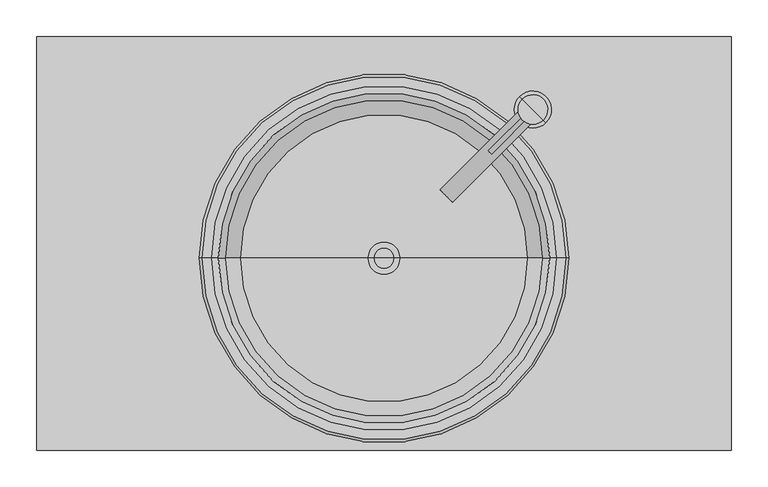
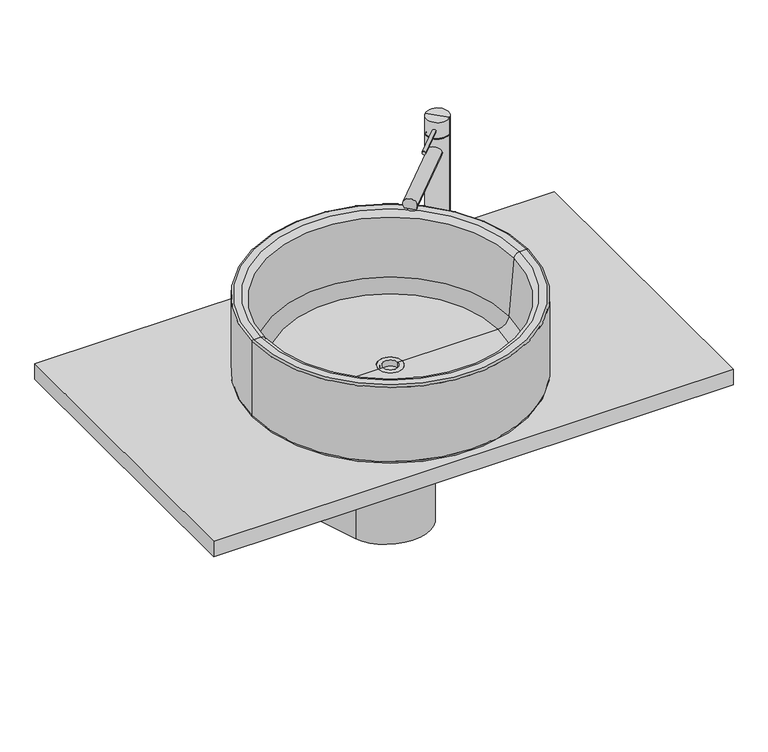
"""IFC4 building model written with IfcOpenShell, lengths in millimetres: flow terminal geometry, Lavabo moderne : Lavabo moderne."""

from ifc_helpers import new_model, si_unit, point, frame, frame_2d, origin, place, context, project, spatial, polyline, circle_curve, ellipse_curve, trimmed, segment, composite_curve, outline, extrude, source, transform, mapped, element, save
from ifc_brep_helpers import plane_surface, cylinder_surface, revolved_surface, advanced_brep


def flow_terminal_414a0167(model_context):
    return source(origin(), model_context, "Body", "SolidModel", [
        advanced_brep(
        [(117.6871066, -224.1333228, 240.6419785), (100.7165438, -207.16276, 240.6419785), (102.5610803, -209.0072965, 233.1719709), (115.8425701, -222.2887863, 233.1719709), (217.8900178, -89.989286, 240.6419785), (234.8605806, -106.9598487, 240.6419785), (133.5202396, -204.6111168, 233.1719709), (120.2387498, -191.329627, 233.1719709)],
        [
            (0, 1, circle_curve(frame((109.2018252, -215.6480414, 240.6419785), z_axis=(-0.707106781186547, -0.707106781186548, 0.0), x_axis=(0.7071067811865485, -0.7071067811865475, 0.0)), 12.0)),
            (1, 2, circle_curve(frame((109.2018252, -215.6480414, 240.6419785), z_axis=(-0.707106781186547, -0.707106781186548, 0.0), x_axis=(0.7071067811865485, -0.7071067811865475, 0.0)), 12.0)),
            (2, 3),
            (3, 0, circle_curve(frame((109.2018252, -215.6480414, 240.6419785), z_axis=(-0.707106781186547, -0.707106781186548, 0.0), x_axis=(0.7071067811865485, -0.7071067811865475, 0.0)), 12.0)),
            (4, 5, circle_curve(frame((226.3752992, -98.4745674, 240.6419785), z_axis=(0.707106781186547, 0.707106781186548, 0.0), x_axis=(0.7071067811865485, -0.7071067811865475, 0.0)), 12.0)),
            (5, 4, circle_curve(frame((226.3752992, -98.4745674, 240.6419785), z_axis=(0.707106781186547, 0.707106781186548, 0.0), x_axis=(0.7071067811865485, -0.7071067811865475, 0.0)), 12.0)),
            (5, 0),
            (3, 6),
            (6, 7, circle_curve(frame((126.8794947, -197.9703719, 240.6419785), z_axis=(0.707106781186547, 0.707106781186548, 0.0), x_axis=(0.7071067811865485, -0.7071067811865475, 0.0)), 12.0)),
            (7, 2),
            (1, 4),
            (7, 6),
        ],
        [
            plane_surface(frame((117.6871066, -224.1333228, 240.6419785), z_axis=(-0.707106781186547, -0.707106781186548, 0.0), x_axis=(0.0, 0.0, 1.0))),
            plane_surface(frame((234.8605806, -106.9598487, 240.6419785), z_axis=(0.707106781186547, 0.707106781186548, 0.0), x_axis=(0.0, 0.0, -1.0))),
            cylinder_surface(frame((226.3752992, -98.4745674, 240.6419785), z_axis=(-0.7071067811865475, -0.7071067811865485, 0.0), x_axis=(0.7071067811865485, -0.7071067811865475, 0.0)), 12.0),
            plane_surface(frame((98.3017966, -204.7480128, 233.1719709), z_axis=(0.0, 0.0, -1.0), x_axis=(0.707106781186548, -0.707106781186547, 0.0))),
            plane_surface(frame((115.9794661, -187.0703433, 233.1719709), z_axis=(-0.707106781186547, -0.707106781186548, 0.0), x_axis=(0.707106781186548, -0.707106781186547, 0.0))),
        ],
        [
            (0, [[1, 2, 3, 4]]),
            (1, [[5, 6]]),
            (2, [[-6, 7, -4, 8, 9, 10, -2, 11]]),
            (2, [[-1, -7, -5, -11]]),
            (3, [[12, -8, -3, -10]]),
            (4, [[-12, -9]]),
        ],
    ),
        extrude(outline(composite_curve([segment(trimmed(circle_curve(frame_2d((0.0, -3.0)), 3.0), [point((0.0, -6.0))], [point((0.0, 0.0))], False, "CARTESIAN"), True, "CONTINUOUS"), segment(trimmed(circle_curve(frame_2d((0.0, -3.0)), 3.0), [point((0.0, 0.0))], [point((0.0, -6.0))], False, "CARTESIAN"), True, "CONTINUOUS")], self_intersect=False)), frame((170.4834109, -158.6090964, 283.2676852), z_axis=(0.707106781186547, 0.707106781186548, 0.0), x_axis=(0.0, 0.0, 1.0)), (0.0, 0.0, 1.0), 82.0430665),
        advanced_brep(
        [(226.3752992, -98.4745674, 0.0), (208.6976297, -80.7968978, 0.0), (244.0529687, -116.1522369, 0.0), (240.5174348, -112.616703, 300.0), (212.2331636, -84.3324317, 300.0), (226.3752992, -98.4745674, 300.0), (240.5174348, -112.616703, 270.0), (212.2331636, -84.3324317, 270.0), (239.1032213, -111.2024894, 270.0), (213.6473772, -85.7466453, 270.0), (239.1032213, -111.2024894, 268.0), (213.6473772, -85.7466453, 268.0), (240.5174348, -112.616703, 268.0), (212.2331636, -84.3324317, 268.0), (240.5174348, -112.616703, 4.0), (212.2331636, -84.3324317, 4.0), (244.0529687, -116.1522369, 4.0), (208.6976297, -80.7968978, 4.0)],
        [
            (0, 1),
            (1, 2, circle_curve(frame((226.3752992, -98.4745674, 0.0), z_axis=(0.0, 0.0, -1.0), x_axis=(-0.7071067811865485, 0.7071067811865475, 0.0)), 25.0)),
            (2, 0),
            (2, 1, circle_curve(frame((226.3752992, -98.4745674, 0.0), z_axis=(0.0, 0.0, -1.0), x_axis=(-0.7071067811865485, 0.7071067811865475, 0.0)), 25.0)),
            (3, 4, circle_curve(frame((226.3752992, -98.4745674, 300.0), z_axis=(0.0, 0.0, 1.0), x_axis=(-0.7071067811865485, 0.7071067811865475, 0.0)), 20.0)),
            (4, 5),
            (5, 3),
            (4, 3, circle_curve(frame((226.3752992, -98.4745674, 300.0), z_axis=(0.0, 0.0, 1.0), x_axis=(-0.7071067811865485, 0.7071067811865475, 0.0)), 20.0)),
            (3, 6),
            (6, 7, circle_curve(frame((226.3752992, -98.4745674, 270.0), z_axis=(0.0, 0.0, 1.0), x_axis=(-0.7071067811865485, 0.7071067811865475, 0.0)), 20.0)),
            (7, 4),
            (7, 6, circle_curve(frame((226.3752992, -98.4745674, 270.0), z_axis=(0.0, 0.0, 1.0), x_axis=(-0.7071067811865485, 0.7071067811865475, 0.0)), 20.0)),
            (6, 8),
            (8, 9, circle_curve(frame((226.3752992, -98.4745674, 270.0), z_axis=(0.0, 0.0, 1.0), x_axis=(-0.7071067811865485, 0.7071067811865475, 0.0)), 18.0)),
            (9, 7),
            (9, 8, circle_curve(frame((226.3752992, -98.4745674, 270.0), z_axis=(0.0, 0.0, 1.0), x_axis=(-0.7071067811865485, 0.7071067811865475, 0.0)), 18.0)),
            (8, 10),
            (10, 11, circle_curve(frame((226.3752992, -98.4745674, 268.0), z_axis=(0.0, 0.0, 1.0), x_axis=(-0.7071067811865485, 0.7071067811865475, 0.0)), 18.0)),
            (11, 9),
            (11, 10, circle_curve(frame((226.3752992, -98.4745674, 268.0), z_axis=(0.0, 0.0, 1.0), x_axis=(-0.7071067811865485, 0.7071067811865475, 0.0)), 18.0)),
            (10, 12),
            (12, 13, circle_curve(frame((226.3752992, -98.4745674, 268.0), z_axis=(0.0, 0.0, 1.0), x_axis=(-0.7071067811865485, 0.7071067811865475, 0.0)), 20.0)),
            (13, 11),
            (13, 12, circle_curve(frame((226.3752992, -98.4745674, 268.0), z_axis=(0.0, 0.0, 1.0), x_axis=(-0.7071067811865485, 0.7071067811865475, 0.0)), 20.0)),
            (12, 14),
            (14, 15, circle_curve(frame((226.3752992, -98.4745674, 4.0), z_axis=(0.0, 0.0, 1.0), x_axis=(-0.7071067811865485, 0.7071067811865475, 0.0)), 20.0)),
            (15, 13),
            (15, 14, circle_curve(frame((226.3752992, -98.4745674, 4.0), z_axis=(0.0, 0.0, 1.0), x_axis=(-0.7071067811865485, 0.7071067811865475, 0.0)), 20.0)),
            (14, 16),
            (16, 17, circle_curve(frame((226.3752992, -98.4745674, 4.0), z_axis=(0.0, 0.0, 1.0), x_axis=(-0.7071067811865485, 0.7071067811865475, 0.0)), 25.0)),
            (17, 15),
            (17, 16, circle_curve(frame((226.3752992, -98.4745674, 4.0), z_axis=(0.0, 0.0, 1.0), x_axis=(-0.7071067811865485, 0.7071067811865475, 0.0)), 25.0)),
            (1, 17),
            (16, 2),
        ],
        [
            plane_surface(frame((226.3752992, -98.4745674, 0.0), z_axis=(0.0, 0.0, -1.0), x_axis=(-0.707106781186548, 0.707106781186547, 0.0))),
            plane_surface(frame((226.3752992, -98.4745674, 300.0), z_axis=(0.0, 0.0, 1.0), x_axis=(-0.707106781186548, 0.707106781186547, 0.0))),
            cylinder_surface(frame((226.3752992, -98.4745674, -25.0), z_axis=(0.0, 0.0, -1.0), x_axis=(-0.7071067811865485, 0.7071067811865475, 0.0)), 20.0),
            plane_surface(frame((226.3752992, -98.4745674, 270.0), z_axis=(0.0, 0.0, -1.0), x_axis=(-0.707106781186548, 0.707106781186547, 0.0))),
            cylinder_surface(frame((226.3752992, -98.4745674, -25.0), z_axis=(0.0, 0.0, -1.0), x_axis=(-0.7071067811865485, 0.7071067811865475, 0.0)), 18.0),
            plane_surface(frame((226.3752992, -98.4745674, 268.0), z_axis=(0.0, 0.0, 1.0), x_axis=(-0.707106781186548, 0.707106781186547, 0.0))),
            plane_surface(frame((226.3752992, -98.4745674, 4.0), z_axis=(0.0, 0.0, 1.0), x_axis=(-0.707106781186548, 0.707106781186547, 0.0))),
            cylinder_surface(frame((226.3752992, -98.4745674, -25.0), z_axis=(0.0, 0.0, -1.0), x_axis=(-0.7071067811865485, 0.7071067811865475, 0.0)), 25.0),
        ],
        [
            (0, [[1, 2, 3]]),
            (0, [[-1, -3, 4]]),
            (1, [[5, 6, 7]]),
            (1, [[-6, 8, -7]]),
            (2, [[-5, 9, 10, 11]]),
            (2, [[-8, -11, 12, -9]]),
            (3, [[-10, 13, 14, 15]]),
            (3, [[-12, -15, 16, -13]]),
            (4, [[-14, 17, 18, 19]]),
            (4, [[-16, -19, 20, -17]]),
            (5, [[-18, 21, 22, 23]]),
            (5, [[-20, -23, 24, -21]]),
            (2, [[-22, 25, 26, 27]]),
            (2, [[-24, -27, 28, -25]]),
            (6, [[-26, 29, 30, 31]]),
            (6, [[-28, -31, 32, -29]]),
            (7, [[-2, 33, -30, 34]]),
            (7, [[-4, -34, -32, -33]]),
        ],
    ),
        advanced_brep(
        [(111.5201538, -202.0160043, 233.1719709), (122.8338623, -213.3297128, 233.1719709), (111.5201538, -202.0160043, 227.0717002), (122.8338623, -213.3297128, 227.0717002)],
        [
            (0, 1, circle_curve(frame((117.177008, -207.6728586, 233.1719709), z_axis=(0.0, 0.0, 1.0), x_axis=(0.7071067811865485, -0.7071067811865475, 0.0)), 8.0)),
            (1, 0, circle_curve(frame((117.177008, -207.6728586, 233.1719709), z_axis=(0.0, 0.0, 1.0), x_axis=(0.7071067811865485, -0.7071067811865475, 0.0)), 8.0)),
            (2, 3, circle_curve(frame((117.177008, -207.6728586, 227.0717002), z_axis=(0.0, 0.0, -1.0), x_axis=(0.7071067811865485, -0.7071067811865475, 0.0)), 8.0)),
            (3, 2, circle_curve(frame((117.177008, -207.6728586, 227.0717002), z_axis=(0.0, 0.0, -1.0), x_axis=(0.7071067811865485, -0.7071067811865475, 0.0)), 8.0)),
            (0, 2),
            (3, 1),
        ],
        [
            plane_surface(frame((122.8338623, -213.3297128, 233.1719709), z_axis=(0.0, 0.0, 1.0), x_axis=(0.707106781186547, 0.707106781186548, 0.0))),
            plane_surface(frame((122.8338623, -213.3297128, 227.0717002), z_axis=(0.0, 0.0, -1.0), x_axis=(-0.707106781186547, -0.707106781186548, 0.0))),
            cylinder_surface(frame((117.177008, -207.6728586, 227.0717002), z_axis=(0.0, 0.0, 1.0), x_axis=(0.7071067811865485, -0.7071067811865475, 0.0)), 8.0),
        ],
        [
            (0, [[1, 2]]),
            (1, [[3, 4]]),
            (2, [[-1, 5, -4, 6]]),
            (2, [[-2, -6, -3, -5]]),
        ],
    ),
        extrude(outline(polyline([(494.8498666, 0.0), (494.8498666, -560.0), (-445.1501334, -560.0), (-445.1501334, 0.0), (494.8498666, 0.0)])), frame((0.0, 0.0, -30.0), z_axis=(0.0, 0.0, 1.0), x_axis=(1.0, 0.0, 0.0)), (0.0, 0.0, 1.0), 30.0),
        advanced_brep(
        [(274.8498666, -300.0, 5.0), (-225.1501334, -300.0, 5.0), (-220.1501334, -300.0, 0.0), (269.8498666, -300.0, 0.0), (274.8498666, -300.0, 147.0), (-225.1501334, -300.0, 147.0), (271.8498666, -300.0, 150.0), (-222.1501334, -300.0, 150.0), (259.0131783, -300.0, 150.0), (-209.3134452, -300.0, 150.0), (249.0512313, -300.0, 140.8715574), (-199.3514982, -300.0, 140.8715574), (239.6361675, -300.0, 33.2568851), (-189.9364343, -300.0, 33.2568851), (219.7122735, -300.0, 15.0), (-170.0125404, -300.0, 15.0), (46.8498666, -300.0, 15.0), (2.8498666, -300.0, 15.0), (46.8498666, -300.0, 13.464751), (2.8498666, -300.0, 13.464751), (41.8498666, -300.0, 13.464751), (7.8498666, -300.0, 13.464751), (41.8498666, -300.0, 0.0), (7.8498666, -300.0, 0.0)],
        [
            (0, 1, circle_curve(frame((24.8498666, -300.0, 5.0), z_axis=(0.0, 0.0, -1.0), x_axis=(-1.0, 0.0, 0.0)), 250.0)),
            (1, 2, circle_curve(frame((-220.1501334, -300.0, 5.0), z_axis=(0.0, -1.0, 0.0), x_axis=(-1.0, 0.0, 0.0)), 5.0)),
            (2, 3, circle_curve(frame((24.8498666, -300.0, 0.0), z_axis=(0.0, 0.0, 1.0), x_axis=(-1.0, 0.0, 0.0)), 245.0)),
            (3, 0, circle_curve(frame((269.8498666, -300.0, 5.0), z_axis=(0.0, -1.0, 0.0), x_axis=(1.0, 0.0, 0.0)), 5.0)),
            (1, 0, circle_curve(frame((24.8498666, -300.0, 5.0), z_axis=(0.0, 0.0, -1.0), x_axis=(-1.0, 0.0, 0.0)), 250.0)),
            (3, 2, circle_curve(frame((24.8498666, -300.0, 0.0), z_axis=(0.0, 0.0, 1.0), x_axis=(-1.0, 0.0, 0.0)), 245.0)),
            (4, 5, circle_curve(frame((24.8498666, -300.0, 147.0), z_axis=(0.0, 0.0, -1.0), x_axis=(-1.0, 0.0, 0.0)), 250.0)),
            (5, 1),
            (0, 4),
            (5, 4, circle_curve(frame((24.8498666, -300.0, 147.0), z_axis=(0.0, 0.0, -1.0), x_axis=(-1.0, 0.0, 0.0)), 250.0)),
            (6, 7, circle_curve(frame((24.8498666, -300.0, 150.0), z_axis=(0.0, 0.0, -1.0), x_axis=(-1.0, 0.0, 0.0)), 247.0)),
            (7, 5, circle_curve(frame((-222.1501334, -300.0, 147.0), z_axis=(0.0, -1.0, 0.0), x_axis=(-1.0, 0.0, 0.0)), 3.0)),
            (4, 6, circle_curve(frame((271.8498666, -300.0, 147.0), z_axis=(0.0, -1.0, 0.0), x_axis=(1.0, 0.0, 0.0)), 3.0)),
            (7, 6, circle_curve(frame((24.8498666, -300.0, 150.0), z_axis=(0.0, 0.0, -1.0), x_axis=(-1.0, 0.0, 0.0)), 247.0)),
            (8, 9, circle_curve(frame((24.8498666, -300.0, 150.0), z_axis=(0.0, 0.0, -1.0), x_axis=(-1.0, 0.0, 0.0)), 234.1633117)),
            (9, 7),
            (6, 8),
            (9, 8, circle_curve(frame((24.8498666, -300.0, 150.0), z_axis=(0.0, 0.0, -1.0), x_axis=(-1.0, 0.0, 0.0)), 234.1633117)),
            (10, 11, circle_curve(frame((24.8498666, -300.0, 140.8715574), z_axis=(0.0, 0.0, -1.0), x_axis=(-1.0, 0.0, 0.0)), 224.2013648)),
            (11, 9, circle_curve(frame((-209.3134452, -300.0, 140.0), z_axis=(0.0, -1.0, 0.0), x_axis=(-1.0, 0.0, 0.0)), 10.0)),
            (8, 10, circle_curve(frame((259.0131783, -300.0, 140.0), z_axis=(0.0, -1.0, 0.0), x_axis=(1.0, 0.0, 0.0)), 10.0)),
            (11, 10, circle_curve(frame((24.8498666, -300.0, 140.8715574), z_axis=(0.0, 0.0, -1.0), x_axis=(-1.0, 0.0, 0.0)), 224.2013648)),
            (12, 13, circle_curve(frame((24.8498666, -300.0, 33.2568851), z_axis=(0.0, 0.0, -1.0), x_axis=(-1.0, 0.0, 0.0)), 214.7863009)),
            (13, 11),
            (10, 12),
            (13, 12, circle_curve(frame((24.8498666, -300.0, 33.2568851), z_axis=(0.0, 0.0, -1.0), x_axis=(-1.0, 0.0, 0.0)), 214.7863009)),
            (14, 15, circle_curve(frame((24.8498666, -300.0, 15.0), z_axis=(0.0, 0.0, -1.0), x_axis=(-1.0, 0.0, 0.0)), 194.8624069)),
            (15, 13, circle_curve(frame((-170.0125404, -300.0, 35.0), z_axis=(0.0, 1.0, 0.0), x_axis=(-1.0, 0.0, 0.0)), 20.0)),
            (12, 14, circle_curve(frame((219.7122735, -300.0, 35.0), z_axis=(0.0, 1.0, 0.0), x_axis=(1.0, 0.0, 0.0)), 20.0)),
            (15, 14, circle_curve(frame((24.8498666, -300.0, 15.0), z_axis=(0.0, 0.0, -1.0), x_axis=(-1.0, 0.0, 0.0)), 194.8624069)),
            (16, 17, circle_curve(frame((24.8498666, -300.0, 15.0), z_axis=(0.0, 0.0, -1.0), x_axis=(-1.0, 0.0, 0.0)), 22.0)),
            (17, 15),
            (14, 16),
            (17, 16, circle_curve(frame((24.8498666, -300.0, 15.0), z_axis=(0.0, 0.0, -1.0), x_axis=(-1.0, 0.0, 0.0)), 22.0)),
            (18, 19, circle_curve(frame((24.8498666, -300.0, 13.464751), z_axis=(0.0, 0.0, -1.0), x_axis=(-1.0, 0.0, 0.0)), 22.0)),
            (19, 17),
            (16, 18),
            (19, 18, circle_curve(frame((24.8498666, -300.0, 13.464751), z_axis=(0.0, 0.0, -1.0), x_axis=(-1.0, 0.0, 0.0)), 22.0)),
            (20, 21, circle_curve(frame((24.8498666, -300.0, 13.464751), z_axis=(0.0, 0.0, -1.0), x_axis=(-1.0, 0.0, 0.0)), 17.0)),
            (21, 19),
            (18, 20),
            (21, 20, circle_curve(frame((24.8498666, -300.0, 13.464751), z_axis=(0.0, 0.0, -1.0), x_axis=(-1.0, 0.0, 0.0)), 17.0)),
            (22, 23, circle_curve(frame((24.8498666, -300.0, 0.0), z_axis=(0.0, 0.0, -1.0), x_axis=(-1.0, 0.0, 0.0)), 17.0)),
            (23, 21),
            (20, 22),
            (23, 22, circle_curve(frame((24.8498666, -300.0, 0.0), z_axis=(0.0, 0.0, -1.0), x_axis=(-1.0, 0.0, 0.0)), 17.0)),
            (2, 23),
            (22, 3),
        ],
        [
            revolved_surface(trimmed(ellipse_curve(frame((-220.1501334, -300.0, 5.0), z_axis=(0.0, 1.0, 0.0), x_axis=(-1.0, 0.0, 0.0)), 5.0, 5.0), [point((-220.1501334, -300.0, 0.0))], [point((-225.1501334, -300.0, 5.0))], True, "CARTESIAN"), (24.8498666, -300.0, -50.0), (0.0, 0.0, 1.0)),
            cylinder_surface(frame((24.8498666, -300.0, -50.0), z_axis=(0.0, 0.0, 1.0), x_axis=(-1.0, 0.0, 0.0)), 250.0),
            revolved_surface(trimmed(ellipse_curve(frame((-222.1501334, -300.0, 147.0), z_axis=(0.0, 1.0, 0.0), x_axis=(-1.0, 0.0, 0.0)), 3.0, 3.0), [point((-225.1501334, -300.0, 147.0))], [point((-222.1501334, -300.0, 150.0))], True, "CARTESIAN"), (24.8498666, -300.0, -50.0), (0.0, 0.0, 1.0)),
            plane_surface(frame((24.8498666, -300.0, 150.0), z_axis=(0.0, 0.0, 1.0), x_axis=(-1.0, 0.0, 0.0))),
            revolved_surface(trimmed(ellipse_curve(frame((-209.3134452, -300.0, 140.0), z_axis=(0.0, 1.0, 0.0), x_axis=(-1.0, 0.0, 0.0)), 10.0, 10.0), [point((-209.3134452, -300.0, 150.0))], [point((-199.3514982, -300.0, 140.8715574))], True, "CARTESIAN"), (24.8498666, -300.0, -50.0), (0.0, 0.0, 1.0)),
            revolved_surface(polyline([(-199.3514982, -300.0, 140.8715574), (-189.9364343, -300.0, 33.2568851)]), (24.8498666, -300.0, -50.0), (0.0, 0.0, 1.0)),
            revolved_surface(trimmed(ellipse_curve(frame((-170.0125404, -300.0, 35.0), z_axis=(0.0, -1.0, 0.0), x_axis=(-1.0, 0.0, 0.0)), 20.0, 20.0), [point((-189.9364343, -300.0, 33.2568851))], [point((-170.0125404, -300.0, 15.0))], True, "CARTESIAN"), (24.8498666, -300.0, -50.0), (0.0, 0.0, 1.0)),
            plane_surface(frame((24.8498666, -300.0, 15.0), z_axis=(0.0, 0.0, 1.0), x_axis=(-1.0, 0.0, 0.0))),
            revolved_surface(polyline([(2.8498665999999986, -300.0, 15.0), (2.8498665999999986, -300.0, 13.464751)]), (24.8498666, -300.0, -50.0), (0.0, 0.0, 1.0)),
            plane_surface(frame((24.8498666, -300.0, 13.464751), z_axis=(0.0, 0.0, 1.0), x_axis=(-1.0, 0.0, 0.0))),
            revolved_surface(polyline([(7.849866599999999, -300.0, 13.464751), (7.849866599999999, -300.0, 0.0)]), (24.8498666, -300.0, -50.0), (0.0, 0.0, 1.0)),
            plane_surface(frame((24.8498666, -300.0, 0.0), z_axis=(0.0, 0.0, -1.0), x_axis=(-1.0, 0.0, 0.0))),
        ],
        [
            (0, [[1, 2, 3, 4]]),
            (0, [[5, -4, 6, -2]]),
            (1, [[7, 8, -1, 9]]),
            (1, [[10, -9, -5, -8]]),
            (2, [[11, 12, -7, 13]]),
            (2, [[14, -13, -10, -12]]),
            (3, [[15, 16, -11, 17]]),
            (3, [[18, -17, -14, -16]]),
            (4, [[19, 20, -15, 21]]),
            (4, [[22, -21, -18, -20]]),
            (5, [[23, 24, -19, 25]]),
            (5, [[26, -25, -22, -24]]),
            (6, [[27, 28, -23, 29]]),
            (6, [[30, -29, -26, -28]]),
            (7, [[31, 32, -27, 33]]),
            (7, [[34, -33, -30, -32]]),
            (8, [[35, 36, -31, 37]]),
            (8, [[38, -37, -34, -36]]),
            (9, [[39, 40, -35, 41]]),
            (9, [[42, -41, -38, -40]]),
            (10, [[43, 44, -39, 45]]),
            (10, [[46, -45, -42, -44]]),
            (11, [[-3, 47, -43, 48]]),
            (11, [[-6, -48, -46, -47]]),
        ],
    ),
        advanced_brep(
        [(93.9365302, -311.2708876, -30.0), (144.717665, 0.0, -30.0), (-95.0179319, 0.0, -30.0), (-44.2367971, -311.2708876, -30.0), (93.9365302, -311.2708876, -286.6762322), (144.717665, 0.0, -335.8242671), (-95.0179319, 0.0, -335.8242671), (-44.2367971, -311.2708876, -286.6762322)],
        [
            (0, 1),
            (1, 2),
            (2, 3),
            (3, 0, circle_curve(frame((24.8498666, -300.0, -30.0), z_axis=(0.0, 0.0, 1.0), x_axis=(1.0, 0.0, 0.0)), 70.0)),
            (0, 4),
            (4, 5),
            (5, 1),
            (5, 6),
            (6, 2),
            (6, 7),
            (7, 3),
            (7, 4, ellipse_curve(frame((24.8498666, -300.0, -288.4558461), z_axis=(0.0, 0.1559625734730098, 0.9877629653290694), x_axis=(0.0, -0.9877629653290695, 0.1559625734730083)), 70.8672044, 70.0)),
        ],
        [
            plane_surface(frame((154.8498666, 62.10691, -30.0), z_axis=(0.0, 0.0, 1.0), x_axis=(0.16101267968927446, 0.9869523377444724, 0.0))),
            plane_surface(frame((93.9365302, -311.2708876, -30.0), z_axis=(0.9869523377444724, -0.16101267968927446, 0.0), x_axis=(0.0, 0.0, -1.0))),
            plane_surface(frame((144.717665, 0.0, -30.0), z_axis=(0.0, 1.0, 0.0), x_axis=(0.0, 0.0, -1.0))),
            plane_surface(frame((-95.0179319, 0.0, -30.0), z_axis=(-0.9869523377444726, -0.1610126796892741, 0.0), x_axis=(0.0, 0.0, -1.0))),
            cylinder_surface(frame((24.8498666, -300.0, -335.8242671), z_axis=(0.0, 0.0, 1.0), x_axis=(1.0, 0.0, 0.0)), 70.0),
            plane_surface(frame((189.9645656, 0.0, -335.8242671), z_axis=(0.0, -0.1559625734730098, -0.9877629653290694), x_axis=(-1.0, 0.0, 0.0))),
        ],
        [
            (0, [[1, 2, 3, 4]]),
            (1, [[-1, 5, 6, 7]]),
            (2, [[-2, -7, 8, 9]]),
            (3, [[-3, -9, 10, 11]]),
            (4, [[-4, -11, 12, -5]]),
            (5, [[-6, -12, -10, -8]]),
        ],
    ),
        advanced_brep(
        [(38.5877729, -300.0, 15.0), (11.1119603, -300.0, 15.0), (2.8498666, -300.0, 15.0), (46.8498666, -300.0, 15.0), (38.5877729, -300.0, 3.7247134), (11.1119603, -300.0, 3.7247134), (24.8498666, -300.0, 3.7247134), (41.8498666, -300.0, 0.0), (7.8498666, -300.0, 0.0), (24.8498666, -300.0, 0.0), (41.8498666, -300.0, 13.464751), (7.8498666, -300.0, 13.464751), (46.8498666, -300.0, 13.464751), (2.8498666, -300.0, 13.464751)],
        [
            (0, 1, circle_curve(frame((24.8498666, -300.0, 15.0), z_axis=(0.0, 0.0, -1.0), x_axis=(-1.0, 0.0, 0.0)), 13.7379063)),
            (1, 2),
            (2, 3, circle_curve(frame((24.8498666, -300.0, 15.0), z_axis=(0.0, 0.0, 1.0), x_axis=(-1.0, 0.0, 0.0)), 22.0)),
            (3, 0),
            (1, 0, circle_curve(frame((24.8498666, -300.0, 15.0), z_axis=(0.0, 0.0, -1.0), x_axis=(-1.0, 0.0, 0.0)), 13.7379063)),
            (3, 2, circle_curve(frame((24.8498666, -300.0, 15.0), z_axis=(0.0, 0.0, 1.0), x_axis=(-1.0, 0.0, 0.0)), 22.0)),
            (4, 5, circle_curve(frame((24.8498666, -300.0, 3.7247134), z_axis=(0.0, 0.0, -1.0), x_axis=(-1.0, 0.0, 0.0)), 13.7379063)),
            (5, 1),
            (0, 4),
            (5, 4, circle_curve(frame((24.8498666, -300.0, 3.7247134), z_axis=(0.0, 0.0, -1.0), x_axis=(-1.0, 0.0, 0.0)), 13.7379063)),
            (6, 5),
            (4, 6),
            (7, 8, circle_curve(frame((24.8498666, -300.0, 0.0), z_axis=(0.0, 0.0, -1.0), x_axis=(-1.0, 0.0, 0.0)), 17.0)),
            (8, 9),
            (9, 7),
            (8, 7, circle_curve(frame((24.8498666, -300.0, 0.0), z_axis=(0.0, 0.0, -1.0), x_axis=(-1.0, 0.0, 0.0)), 17.0)),
            (10, 11, circle_curve(frame((24.8498666, -300.0, 13.464751), z_axis=(0.0, 0.0, -1.0), x_axis=(-1.0, 0.0, 0.0)), 17.0)),
            (11, 8),
            (7, 10),
            (11, 10, circle_curve(frame((24.8498666, -300.0, 13.464751), z_axis=(0.0, 0.0, -1.0), x_axis=(-1.0, 0.0, 0.0)), 17.0)),
            (12, 13, circle_curve(frame((24.8498666, -300.0, 13.464751), z_axis=(0.0, 0.0, -1.0), x_axis=(-1.0, 0.0, 0.0)), 22.0)),
            (13, 11),
            (10, 12),
            (13, 12, circle_curve(frame((24.8498666, -300.0, 13.464751), z_axis=(0.0, 0.0, -1.0), x_axis=(-1.0, 0.0, 0.0)), 22.0)),
            (2, 13),
            (12, 3),
        ],
        [
            plane_surface(frame((24.8498666, -300.0, 15.0), z_axis=(0.0, 0.0, 1.0), x_axis=(-1.0, 0.0, 0.0))),
            revolved_surface(polyline([(11.111960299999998, -300.0, 15.000000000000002), (11.111960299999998, -300.0, 3.7247134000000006)]), (24.8498666, -300.0, -6.9916745), (0.0, 0.0, 1.0)),
            plane_surface(frame((24.8498666, -300.0, 3.7247134), z_axis=(0.0, 0.0, 1.0), x_axis=(-1.0, 0.0, 0.0))),
            plane_surface(frame((24.8498666, -300.0, 0.0), z_axis=(0.0, 0.0, -1.0), x_axis=(-1.0, 0.0, 0.0))),
            cylinder_surface(frame((24.8498666, -300.0, -6.9916745), z_axis=(0.0, 0.0, 1.0), x_axis=(-1.0, 0.0, 0.0)), 17.0),
            plane_surface(frame((24.8498666, -300.0, 13.464751), z_axis=(0.0, 0.0, -1.0), x_axis=(-1.0, 0.0, 0.0))),
            cylinder_surface(frame((24.8498666, -300.0, -6.9916745), z_axis=(0.0, 0.0, 1.0), x_axis=(-1.0, 0.0, 0.0)), 22.0),
        ],
        [
            (0, [[1, 2, 3, 4]]),
            (0, [[5, -4, 6, -2]]),
            (1, [[7, 8, -1, 9]]),
            (1, [[10, -9, -5, -8]]),
            (2, [[11, -7, 12]]),
            (2, [[-12, -10, -11]]),
            (3, [[13, 14, 15]]),
            (3, [[16, -15, -14]]),
            (4, [[17, 18, -13, 19]]),
            (4, [[20, -19, -16, -18]]),
            (5, [[21, 22, -17, 23]]),
            (5, [[24, -23, -20, -22]]),
            (6, [[-3, 25, -21, 26]]),
            (6, [[-6, -26, -24, -25]]),
        ],
    ),
    ])


if __name__ == "__main__":
    model = new_model("IFC4")
    model_context = context("Model", 3, world=origin())
    ifc_project = project(units=[si_unit("LENGTHUNIT", "METRE", prefix="MILLI")], contexts=[model_context])
    site = spatial("IfcSite", under=ifc_project)
    building = spatial("IfcBuilding", under=site)
    placement = place(None, origin())
    flow_terminal_shape = flow_terminal_414a0167(model_context)
    element("IfcFlowTerminal", 1, ObjectType="Lavabo moderne : Lavabo moderne", at=placement, inside=building, context=model_context, shape_type="MappedRepresentation", body=[
        mapped(flow_terminal_shape, transform((0.0, 0.0, 0.0), x_axis=(1.0, 0.0, 0.0), y_axis=(0.0, 1.0, 0.0), z_axis=(0.0, 0.0, 1.0))),
    ])
    save(model, "model.ifc")
